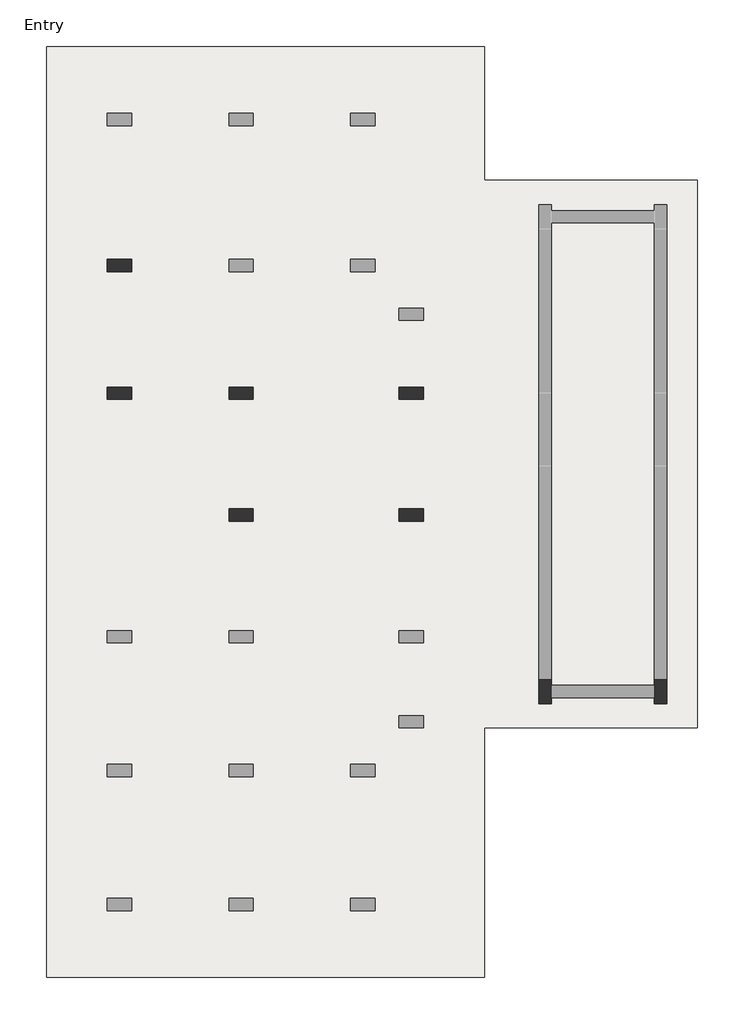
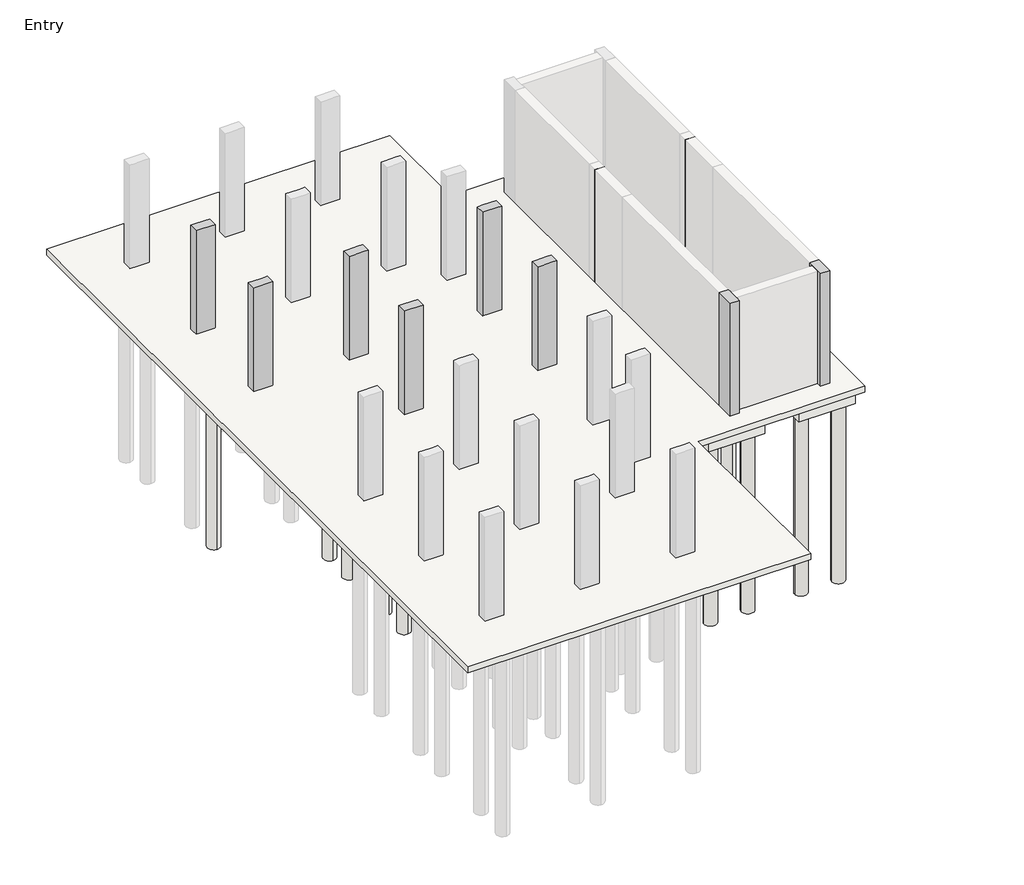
# One storey, part 2 of 3: 32 slabs, 13 columns, 4 footings.
"""IFC4 building model written with IfcOpenShell, lengths in millimetres."""

from ifc_helpers import new_model, si_unit, point, frame, frame_2d, origin, origin_with_axes, place, context, project, spatial, polyline, circle_curve, trimmed, segment, composite_curve, outline, extrude, faceted_brep, element, save

model = new_model("IFC4")

# Units and contexts
model_context = context("Model", 3, world=origin())
ifc_project = project(units=[si_unit("LENGTHUNIT", "METRE", prefix="MILLI")], contexts=[model_context])

# Site, building, storey
site = spatial("IfcSite", under=ifc_project)
building = spatial("IfcBuilding", under=site)
storey = spatial("IfcBuildingStorey", under=building, Name="Entry", Elevation=0.0)

# Columns
placement = place(None, origin())
element("IfcColumn", 1, ObjectType="Concrete-Rectangular-Column : 12 x 24", at=placement, inside=storey, context=model_context, shape_type="Brep", body=[
    faceted_brep([(-15677.5554735, 10989.3867088, 0.0), (-15067.9554735, 10989.3867088, 0.0), (-15067.9554735, 10684.5867088, 0.0), (-15677.5554735, 10684.5867088, 0.0), (-15677.5554735, 10989.3867088, 3505.2), (-15525.1554735, 10989.3867088, 3505.2), (-15220.3554735, 10989.3867088, 3505.2), (-15067.9554735, 10989.3867088, 3505.2), (-15067.9554735, 10989.3867088, 2895.6), (-15067.9554735, 10684.5867088, 3505.2), (-15067.9554735, 10684.5867088, 2895.6), (-15220.3554735, 10684.5867088, 3505.2), (-15525.1554735, 10684.5867088, 3505.2), (-15677.5554735, 10684.5867088, 3505.2)], [[[0, 1, 2, 3]], [[4, 5, 6, 7, 8, 1, 0]], [[7, 9, 10, 2, 1, 8]], [[9, 11, 12, 13, 3, 2, 10]], [[13, 4, 0, 3]], [[4, 13, 12, 11, 9, 7, 6, 5]]]),
])
element("IfcColumn", 2, ObjectType="Concrete-Rectangular-Column : 12 x 24", at=placement, inside=storey, context=model_context, shape_type="Brep", body=[
    faceted_brep([(-8362.3554735, 7788.9867088, 0.0), (-7752.7554735, 7788.9867088, 0.0), (-7752.7554735, 7484.1867088, 0.0), (-8362.3554735, 7484.1867088, 0.0), (-8362.3554735, 7788.9867088, 3505.2), (-8209.9554735, 7788.9867088, 3505.2), (-7905.1554735, 7788.9867088, 3505.2), (-7752.7554735, 7788.9867088, 3505.2), (-7752.7554735, 7788.9867088, 2895.6), (-8362.3554735, 7788.9867088, 2895.6), (-7752.7554735, 7484.1867088, 3505.2), (-7752.7554735, 7484.1867088, 2895.6), (-7905.1554735, 7484.1867088, 3505.2), (-8209.9554735, 7484.1867088, 3505.2), (-8362.3554735, 7484.1867088, 3505.2), (-8362.3554735, 7484.1867088, 2895.6)], [[[0, 1, 2, 3]], [[4, 5, 6, 7, 8, 1, 0, 9]], [[7, 10, 11, 2, 1, 8]], [[10, 12, 13, 14, 15, 3, 2, 11]], [[14, 4, 9, 0, 3, 15]], [[4, 14, 13, 12, 10, 7, 6, 5]]]),
])
element("IfcColumn", 3, ObjectType="Concrete-Rectangular-Column : 12 x 24", at=placement, inside=storey, context=model_context, shape_type="Brep", body=[
    faceted_brep([(-15677.5554735, 7788.9867088, 0.0), (-15067.9554735, 7788.9867088, 0.0), (-15067.9554735, 7484.1867088, 0.0), (-15677.5554735, 7484.1867088, 0.0), (-15677.5554735, 7788.9867088, 3505.2), (-15525.1554735, 7788.9867088, 3505.2), (-15220.3554735, 7788.9867088, 3505.2), (-15067.9554735, 7788.9867088, 3505.2), (-15067.9554735, 7788.9867088, 2895.6), (-15067.9554735, 7484.1867088, 3505.2), (-15067.9554735, 7484.1867088, 2895.6), (-15677.5554735, 7484.1867088, 3505.2)], [[[0, 1, 2, 3]], [[4, 5, 6, 7, 8, 1, 0]], [[7, 9, 10, 2, 1, 8]], [[9, 11, 3, 2, 10]], [[11, 4, 0, 3]], [[4, 11, 9, 7, 6, 5]]]),
])
element("IfcColumn", 4, ObjectType="Concrete-Rectangular-Column : 12 x 24", at=placement, inside=storey, context=model_context, shape_type="Brep", body=[
    faceted_brep([(-12629.5554735, 7788.9867088, 0.0), (-12019.9554735, 7788.9867088, 0.0), (-12019.9554735, 7484.1867088, 0.0), (-12629.5554735, 7484.1867088, 0.0), (-12629.5554735, 7788.9867088, 3505.2), (-12477.1554735, 7788.9867088, 3505.2), (-12172.3554735, 7788.9867088, 3505.2), (-12019.9554735, 7788.9867088, 3505.2), (-12019.9554735, 7788.9867088, 2895.6), (-12629.5554735, 7788.9867088, 2895.6), (-12019.9554735, 7484.1867088, 3505.2), (-12019.9554735, 7484.1867088, 2895.6), (-12172.3554735, 7484.1867088, 3505.2), (-12477.1554735, 7484.1867088, 3505.2), (-12629.5554735, 7484.1867088, 3505.2), (-12629.5554735, 7484.1867088, 2895.6)], [[[0, 1, 2, 3]], [[4, 5, 6, 7, 8, 1, 0, 9]], [[7, 10, 11, 2, 1, 8]], [[10, 12, 13, 14, 15, 3, 2, 11]], [[14, 4, 9, 0, 3, 15]], [[4, 14, 13, 12, 10, 7, 6, 5]]]),
])
element("IfcColumn", 5, ObjectType="Concrete-Rectangular-Column : 12 x 24", at=placement, inside=storey, context=model_context, shape_type="Brep", body=[
    faceted_brep([(-12629.5554735, 4740.9867088, 0.0), (-12019.9554735, 4740.9867088, 0.0), (-12019.9554735, 4436.1867088, 0.0), (-12629.5554735, 4436.1867088, 0.0), (-12629.5554735, 4740.9867088, 3505.2), (-12477.1554735, 4740.9867088, 3505.2), (-12172.3554735, 4740.9867088, 3505.2), (-12019.9554735, 4740.9867088, 3505.2), (-12019.9554735, 4740.9867088, 2895.6), (-12019.9554735, 4436.1867088, 3505.2), (-12019.9554735, 4436.1867088, 2895.6), (-12172.3554735, 4436.1867088, 3505.2), (-12477.1554735, 4436.1867088, 3505.2), (-12629.5554735, 4436.1867088, 3505.2)], [[[0, 1, 2, 3]], [[4, 5, 6, 7, 8, 1, 0]], [[7, 9, 10, 2, 1, 8]], [[9, 11, 12, 13, 3, 2, 10]], [[13, 4, 0, 3]], [[4, 13, 12, 11, 9, 7, 6, 5]]]),
])
element("IfcColumn", 6, ObjectType="Concrete-Rectangular-Column : 12 x 24", at=placement, inside=storey, context=model_context, shape_type="Brep", body=[
    faceted_brep([(-8362.3554735, 4740.9867088, 0.0), (-7752.7554735, 4740.9867088, 0.0), (-7752.7554735, 4436.1867088, 0.0), (-8362.3554735, 4436.1867088, 0.0), (-8362.3554735, 4740.9867088, 3505.2), (-8209.9554735, 4740.9867088, 3505.2), (-7905.1554735, 4740.9867088, 3505.2), (-7752.7554735, 4740.9867088, 3505.2), (-8362.3554735, 4740.9867088, 2895.6), (-7752.7554735, 4436.1867088, 3505.2), (-7905.1554735, 4436.1867088, 3505.2), (-8209.9554735, 4436.1867088, 3505.2), (-8362.3554735, 4436.1867088, 3505.2), (-8362.3554735, 4436.1867088, 2895.6)], [[[0, 1, 2, 3]], [[4, 5, 6, 7, 1, 0, 8]], [[7, 9, 2, 1]], [[9, 10, 11, 12, 13, 3, 2]], [[12, 4, 8, 0, 3, 13]], [[4, 12, 11, 10, 9, 7, 6, 5]]]),
])
element("IfcColumn", 7, ObjectType="Concrete-Rectangular-Column : 12 x 24", at=placement, inside=storey, context=model_context, shape_type="SweptSolid", body=[
    extrude(outline(polyline([(-4552.3554735, 7331.7867088), (-4857.1554735, 7331.7867088), (-4857.1554735, 7636.5867088), (-4552.3554735, 7636.5867088), (-4552.3554735, 7331.7867088)])), origin_with_axes(), (0.0, 0.0, 1.0), 3810.0),
])
element("IfcColumn", 8, ObjectType="Concrete-Rectangular-Column : 12 x 24", at=placement, inside=storey, context=model_context, shape_type="Brep", body=[
    faceted_brep([(-4552.3554735, 473.7867088, 0.0), (-4552.3554735, 321.3867088, 0.0), (-4552.3554735, 16.5867088, 0.0), (-4552.3554735, -135.8132912, 0.0), (-4857.1554735, -135.8132912, 0.0), (-4857.1554735, 473.7867088, 0.0), (-4552.3554735, 473.7867088, 3810.0), (-4552.3554735, 321.3867088, 3810.0), (-4552.3554735, 16.5867088, 3810.0), (-4552.3554735, -135.8132912, 3810.0), (-4857.1554735, -135.8132912, 3810.0), (-4857.1554735, 473.7867088, 3810.0)], [[[0, 1, 2, 3, 4, 5]], [[6, 7, 8, 9, 3, 2, 1, 0]], [[9, 10, 4, 3]], [[10, 11, 5, 4]], [[11, 6, 0, 5]], [[6, 11, 10, 9, 8, 7]]]),
])
element("IfcColumn", 9, ObjectType="Concrete-Rectangular-Column : 12 x 24", at=placement, inside=storey, context=model_context, shape_type="Brep", body=[
    faceted_brep([(-1656.7554735, 473.7867088, 0.0), (-1656.7554735, -135.8132912, 0.0), (-1961.5554735, -135.8132912, 0.0), (-1961.5554735, 16.5867088, 0.0), (-1961.5554735, 321.3867088, 0.0), (-1961.5554735, 473.7867088, 0.0), (-1656.7554735, 473.7867088, 3810.0), (-1656.7554735, -135.8132912, 3810.0), (-1961.5554735, -135.8132912, 3810.0), (-1961.5554735, 16.5867088, 3810.0), (-1961.5554735, 321.3867088, 3810.0), (-1961.5554735, 473.7867088, 3810.0)], [[[0, 1, 2, 3, 4, 5]], [[6, 7, 1, 0]], [[7, 8, 2, 1]], [[8, 9, 10, 11, 5, 4, 3, 2]], [[11, 6, 0, 5]], [[6, 11, 10, 9, 8, 7]]]),
])
element("IfcColumn", 10, ObjectType="Concrete-Rectangular-Column : 12 x 24", at=placement, inside=storey, context=model_context, shape_type="SweptSolid", body=[
    extrude(outline(polyline([(-1656.7554735, 7331.7867088), (-1961.5554735, 7331.7867088), (-1961.5554735, 7636.5867088), (-1656.7554735, 7636.5867088), (-1656.7554735, 7331.7867088)])), origin_with_axes(), (0.0, 0.0, 1.0), 3810.0),
])
element("IfcColumn", 11, ObjectType="Concrete-Rectangular-Column : 12 x 24", at=placement, inside=storey, context=model_context, shape_type="Brep", body=[
    faceted_brep([(-15677.5554735, 10989.3867088, 0.0), (-15067.9554735, 10989.3867088, 0.0), (-15067.9554735, 10684.5867088, 0.0), (-15677.5554735, 10684.5867088, 0.0), (-15677.5554735, 10989.3867088, 3505.2), (-15525.1554735, 10989.3867088, 3505.2), (-15220.3554735, 10989.3867088, 3505.2), (-15067.9554735, 10989.3867088, 3505.2), (-15067.9554735, 10989.3867088, 2895.6), (-15067.9554735, 10684.5867088, 3505.2), (-15067.9554735, 10684.5867088, 2895.6), (-15220.3554735, 10684.5867088, 3505.2), (-15525.1554735, 10684.5867088, 3505.2), (-15677.5554735, 10684.5867088, 3505.2)], [[[0, 1, 2, 3]], [[4, 5, 6, 7, 8, 1, 0]], [[7, 9, 10, 2, 1, 8]], [[9, 11, 12, 13, 3, 2, 10]], [[13, 4, 0, 3]], [[4, 13, 12, 11, 9, 7, 6, 5]]]),
])
element("IfcColumn", 12, ObjectType="Concrete-Rectangular-Column : 12 x 24", at=placement, inside=storey, context=model_context, shape_type="Brep", body=[
    faceted_brep([(-8362.3554735, 7788.9867088, 0.0), (-7752.7554735, 7788.9867088, 0.0), (-7752.7554735, 7484.1867088, 0.0), (-8362.3554735, 7484.1867088, 0.0), (-8362.3554735, 7788.9867088, 3505.2), (-8209.9554735, 7788.9867088, 3505.2), (-7905.1554735, 7788.9867088, 3505.2), (-7752.7554735, 7788.9867088, 3505.2), (-7752.7554735, 7788.9867088, 2895.6), (-8362.3554735, 7788.9867088, 2895.6), (-7752.7554735, 7484.1867088, 3505.2), (-7752.7554735, 7484.1867088, 2895.6), (-7905.1554735, 7484.1867088, 3505.2), (-8209.9554735, 7484.1867088, 3505.2), (-8362.3554735, 7484.1867088, 3505.2), (-8362.3554735, 7484.1867088, 2895.6)], [[[0, 1, 2, 3]], [[4, 5, 6, 7, 8, 1, 0, 9]], [[7, 10, 11, 2, 1, 8]], [[10, 12, 13, 14, 15, 3, 2, 11]], [[14, 4, 9, 0, 3, 15]], [[4, 14, 13, 12, 10, 7, 6, 5]]]),
])
element("IfcColumn", 13, ObjectType="Concrete-Rectangular-Column : 12 x 24", at=placement, inside=storey, context=model_context, shape_type="Brep", body=[
    faceted_brep([(-12629.5554735, 7788.9867088, 0.0), (-12019.9554735, 7788.9867088, 0.0), (-12019.9554735, 7484.1867088, 0.0), (-12629.5554735, 7484.1867088, 0.0), (-12629.5554735, 7788.9867088, 3505.2), (-12477.1554735, 7788.9867088, 3505.2), (-12172.3554735, 7788.9867088, 3505.2), (-12019.9554735, 7788.9867088, 3505.2), (-12019.9554735, 7788.9867088, 2895.6), (-12629.5554735, 7788.9867088, 2895.6), (-12019.9554735, 7484.1867088, 3505.2), (-12019.9554735, 7484.1867088, 2895.6), (-12172.3554735, 7484.1867088, 3505.2), (-12477.1554735, 7484.1867088, 3505.2), (-12629.5554735, 7484.1867088, 3505.2), (-12629.5554735, 7484.1867088, 2895.6)], [[[0, 1, 2, 3]], [[4, 5, 6, 7, 8, 1, 0, 9]], [[7, 10, 11, 2, 1, 8]], [[10, 12, 13, 14, 15, 3, 2, 11]], [[14, 4, 9, 0, 3, 15]], [[4, 14, 13, 12, 10, 7, 6, 5]]]),
])

# Footings
element("IfcFooting", 14, ObjectType="Bearing Footing - 36\" x 12\"", at=placement, inside=storey, context=model_context, shape_type="Brep", body=[
    faceted_brep([(-1351.9554735, 5807.7867088, -304.8), (-1402.7554735, 5807.7867088, -304.8), (-1402.7554735, 5807.7867088, -203.2), (-1351.9554735, 5807.7867088, -203.2), (-2215.5554735, 5807.7867088, -304.8), (-2266.3554735, 5807.7867088, -304.8), (-2266.3554735, 5807.7867088, -203.2), (-2215.5554735, 5807.7867088, -203.2), (-2266.3554735, 626.1867088, -304.8), (-2266.3554735, 575.3867088, -304.8), (-2266.3554735, 575.3867088, -203.2), (-2266.3554735, 626.1867088, -203.2), (-1351.9554735, 575.3867088, -304.8), (-2215.5554735, 4906.0867088, -304.8), (-1402.7554735, 4906.0867088, -304.8), (-1351.9554735, 575.3867088, -203.2), (-1402.7554735, 4906.0867088, -203.2), (-2215.5554735, 4906.0867088, -203.2)], [[[0, 1, 2, 3]], [[4, 5, 6, 7]], [[5, 8, 9, 10, 11, 6]], [[1, 0, 12, 9, 8, 5, 4, 13, 14]], [[12, 0, 3, 15]], [[1, 14, 16, 2]], [[13, 4, 7, 17]], [[14, 13, 17, 16]], [[9, 12, 15, 10]], [[7, 6, 11, 10, 15, 3, 2, 16, 17]]]),
])
element("IfcFooting", 15, ObjectType="Bearing Footing - 36\" x 12\"", at=placement, inside=storey, context=model_context, shape_type="Brep", body=[
    faceted_brep([(-4552.3554735, -237.4132912, -304.8), (-4552.3554735, -288.2132912, -304.8), (-4552.3554735, -288.2132912, -203.2), (-4552.3554735, -237.4132912, -203.2), (-4552.3554735, 626.1867088, -304.8), (-4552.3554735, 575.3867088, -304.8), (-4552.3554735, 575.3867088, -203.2), (-4552.3554735, 626.1867088, -203.2), (-1961.5554735, -288.2132912, -304.8), (-1961.5554735, -237.4132912, -304.8), (-1961.5554735, -237.4132912, -203.2), (-1961.5554735, -288.2132912, -203.2), (-2266.3554735, 626.1867088, -304.8), (-4247.5554735, 626.1867088, -304.8), (-4247.5554735, 626.1867088, -203.2), (-2266.3554735, 626.1867088, -203.2), (-3803.0554735, -237.4132912, -304.8), (-3803.0554735, 575.3867088, -304.8), (-2266.3554735, 575.3867088, -304.8), (-2710.8554735, 575.3867088, -304.8), (-2710.8554735, -237.4132912, -304.8), (-3803.0554735, 575.3867088, -203.2), (-3803.0554735, -237.4132912, -203.2), (-2266.3554735, 575.3867088, -203.2), (-2710.8554735, 575.3867088, -203.2), (-2710.8554735, -237.4132912, -203.2)], [[[0, 1, 2, 3]], [[4, 5, 6, 7]], [[8, 9, 10, 11]], [[12, 13, 4, 7, 14, 15]], [[8, 1, 0, 16, 17, 5, 4, 13, 12, 18, 19, 20, 9]], [[1, 8, 11, 2]], [[5, 17, 21, 6]], [[16, 0, 3, 22]], [[17, 16, 22, 21]], [[19, 18, 23, 24]], [[20, 19, 24, 25]], [[9, 20, 25, 10]], [[18, 12, 15, 23]], [[7, 6, 21, 22, 3, 2, 11, 10, 25, 24, 23, 15, 14]]]),
])
element("IfcFooting", 16, ObjectType="Bearing Footing - 36\" x 12\"", at=placement, inside=storey, context=model_context, shape_type="SweptSolid", body=[
    extrude(outline(polyline([(-4298.3554735, 4906.0867088), (-4298.3554735, 5807.7867088), (-4247.5554735, 5807.7867088), (-4247.5554735, 626.1867088), (-4552.3554735, 626.1867088), (-4552.3554735, 575.3867088), (-5161.9554735, 575.3867088), (-5161.9554735, 5807.7867088), (-5111.1554735, 5807.7867088), (-5111.1554735, 4906.0867088), (-4298.3554735, 4906.0867088)])), frame((0.0, 0.0, -304.8), z_axis=(0.0, 0.0, 1.0), x_axis=(1.0, 0.0, 0.0)), (0.0, 0.0, 1.0), 101.6),
])
element("IfcFooting", 17, ObjectType="Bearing Footing - 36\" x 12\"", at=placement, inside=storey, context=model_context, shape_type="SweptSolid", body=[
    extrude(outline(polyline([(-1351.9554735, 7636.5867088), (-1351.9554735, 5807.7867088), (-1402.7554735, 5807.7867088), (-1402.7554735, 6709.4867088), (-2215.5554735, 6709.4867088), (-2215.5554735, 5807.7867088), (-2266.3554735, 5807.7867088), (-2266.3554735, 7636.5867088), (-2215.5554735, 7636.5867088), (-2215.5554735, 6734.8867088), (-1402.7554735, 6734.8867088), (-1402.7554735, 7636.5867088), (-1351.9554735, 7636.5867088)])), frame((0.0, 0.0, -304.8), z_axis=(0.0, 0.0, 1.0), x_axis=(1.0, 0.0, 0.0)), (0.0, 0.0, 1.0), 101.6),
])

# Slabs
element("IfcSlab", 18, ObjectType="8\" Foundation Slab", at=placement, inside=storey, context=model_context, shape_type="SweptSolid", body=[
    extrude(outline(polyline([(-6228.7554735, 16323.3867088), (-6228.7554735, 12970.5867088), (-894.7554735, 12970.5867088), (-894.7554735, -745.4132912), (-6228.7554735, -745.4132912), (-6228.7554735, -6993.8132912), (-17201.5554735, -6993.8132912), (-17201.5554735, 16323.3867088), (-6228.7554735, 16323.3867088)])), frame((0.0, 0.0, -203.2), z_axis=(0.0, 0.0, 1.0), x_axis=(1.0, 0.0, 0.0)), (0.0, 0.0, 1.0), 203.2),
])
element("IfcSlab", 19, ObjectType="Pile Cap-2 Pile : 31\"x61\"x35\"", at=placement, inside=storey, context=model_context, shape_type="SweptSolid", body=[
    extrude(outline(polyline([(-15779.1554735, 11738.6867088), (-14966.3554735, 11738.6867088), (-14966.3554735, 9935.2867088), (-15779.1554735, 9935.2867088), (-15779.1554735, 11738.6867088)])), frame((0.0, 0.0, -889.0), z_axis=(0.0, 0.0, 1.0), x_axis=(1.0, 0.0, 0.0)), (0.0, 0.0, 1.0), 685.8),
])
element("IfcSlab", 20, ObjectType="Pile Cap-2 Pile : 31\"x61\"x35\"", at=placement, inside=storey, context=model_context, shape_type="SweptSolid", body=[
    extrude(outline(polyline([(-8463.9554735, 5490.2867088), (-7651.1554735, 5490.2867088), (-7651.1554735, 3686.8867088), (-8463.9554735, 3686.8867088), (-8463.9554735, 5490.2867088)])), frame((0.0, 0.0, -889.0), z_axis=(0.0, 0.0, 1.0), x_axis=(1.0, 0.0, 0.0)), (0.0, 0.0, 1.0), 685.8),
])
element("IfcSlab", 21, ObjectType="Pile Cap-2 Pile : 31\"x61\"x35\"", at=placement, inside=storey, context=model_context, shape_type="SweptSolid", body=[
    extrude(outline(polyline([(-8463.9554735, 8538.2867088), (-7651.1554735, 8538.2867088), (-7651.1554735, 6734.8867088), (-8463.9554735, 6734.8867088), (-8463.9554735, 8538.2867088)])), frame((0.0, 0.0, -889.0), z_axis=(0.0, 0.0, 1.0), x_axis=(1.0, 0.0, 0.0)), (0.0, 0.0, 1.0), 685.8),
])
element("IfcSlab", 22, ObjectType="Pile Cap-2 Pile : 31\"x61\"x35\"", at=placement, inside=storey, context=model_context, shape_type="Brep", body=[
    faceted_brep([(-5111.1554735, 8538.2867088, -889.0), (-4298.3554735, 8538.2867088, -889.0), (-4298.3554735, 6734.8867088, -889.0), (-5111.1554735, 6734.8867088, -889.0), (-5111.1554735, 6734.8867088, -203.2), (-5111.1554735, 7636.5867088, -203.2), (-5111.1554735, 8538.2867088, -203.2), (-5111.1554735, 8538.2867088, -304.8), (-4298.3554735, 6734.8867088, -203.2), (-4298.3554735, 8538.2867088, -304.8), (-4298.3554735, 8538.2867088, -203.2), (-4298.3554735, 7636.5867088, -203.2)], [[[0, 1, 2, 3]], [[0, 3, 4, 5, 6, 7]], [[3, 2, 8, 4]], [[2, 1, 9, 10, 11, 8]], [[1, 0, 7, 6, 10, 9]], [[6, 5, 4, 8, 11, 10]]]),
])
element("IfcSlab", 23, ObjectType="Pile Cap-2 Pile : 31\"x61\"x35\"", at=placement, inside=storey, context=model_context, shape_type="Brep", body=[
    faceted_brep([(-2215.5554735, 8538.2867088, -889.0), (-1402.7554735, 8538.2867088, -889.0), (-1402.7554735, 6734.8867088, -889.0), (-2215.5554735, 6734.8867088, -889.0), (-2215.5554735, 6734.8867088, -304.8), (-2215.5554735, 6734.8867088, -203.2), (-2215.5554735, 7636.5867088, -203.2), (-2215.5554735, 8538.2867088, -203.2), (-2215.5554735, 8538.2867088, -304.8), (-1402.7554735, 6734.8867088, -304.8), (-1402.7554735, 6734.8867088, -203.2), (-1402.7554735, 8538.2867088, -304.8), (-1402.7554735, 8538.2867088, -203.2), (-1402.7554735, 7636.5867088, -203.2)], [[[0, 1, 2, 3]], [[0, 3, 4, 5, 6, 7, 8]], [[3, 2, 9, 10, 5, 4]], [[2, 1, 11, 12, 13, 10, 9]], [[1, 0, 8, 7, 12, 11]], [[7, 6, 5, 10, 13, 12]]]),
])
element("IfcSlab", 24, ObjectType="Pile Cap-2 Pile : 31\"x61\"x35\"", at=placement, inside=storey, context=model_context, shape_type="Brep", body=[
    faceted_brep([(-4298.3554735, 4906.0867088, -889.0), (-5111.1554735, 4906.0867088, -889.0), (-5111.1554735, 6709.4867088, -889.0), (-4298.3554735, 6709.4867088, -889.0), (-4298.3554735, 6709.4867088, -203.2), (-4298.3554735, 5807.7867088, -203.2), (-4298.3554735, 4906.0867088, -203.2), (-4298.3554735, 4906.0867088, -304.8), (-5111.1554735, 6709.4867088, -203.2), (-5111.1554735, 4906.0867088, -304.8), (-5111.1554735, 4906.0867088, -203.2), (-5111.1554735, 5807.7867088, -203.2)], [[[0, 1, 2, 3]], [[0, 3, 4, 5, 6, 7]], [[3, 2, 8, 4]], [[2, 1, 9, 10, 11, 8]], [[1, 0, 7, 6, 10, 9]], [[6, 5, 4, 8, 11, 10]]]),
])
element("IfcSlab", 25, ObjectType="Pile Cap-2 Pile : 31\"x61\"x35\"", at=placement, inside=storey, context=model_context, shape_type="Brep", body=[
    faceted_brep([(-1402.7554735, 4906.0867088, -889.0), (-2215.5554735, 4906.0867088, -889.0), (-2215.5554735, 6709.4867088, -889.0), (-1402.7554735, 6709.4867088, -889.0), (-1402.7554735, 6709.4867088, -304.8), (-1402.7554735, 6709.4867088, -203.2), (-1402.7554735, 5807.7867088, -203.2), (-1402.7554735, 4906.0867088, -203.2), (-1402.7554735, 4906.0867088, -304.8), (-2215.5554735, 6709.4867088, -304.8), (-2215.5554735, 6709.4867088, -203.2), (-2215.5554735, 4906.0867088, -304.8), (-2215.5554735, 4906.0867088, -203.2), (-2215.5554735, 5807.7867088, -203.2)], [[[0, 1, 2, 3]], [[0, 3, 4, 5, 6, 7, 8]], [[3, 2, 9, 10, 5, 4]], [[2, 1, 11, 12, 13, 10, 9]], [[1, 0, 8, 7, 12, 11]], [[7, 6, 5, 10, 13, 12]]]),
])
element("IfcSlab", 26, ObjectType="Pile Cap-2 Pile : 31\"x61\"x35\"", at=placement, inside=storey, context=model_context, shape_type="Brep", body=[
    faceted_brep([(-3803.0554735, 575.3867088, -889.0), (-3803.0554735, -237.4132912, -889.0), (-5606.4554735, -237.4132912, -889.0), (-5606.4554735, 575.3867088, -889.0), (-5606.4554735, 575.3867088, -203.2), (-5161.9554735, 575.3867088, -203.2), (-4552.3554735, 575.3867088, -203.2), (-3803.0554735, 575.3867088, -203.2), (-3803.0554735, 575.3867088, -304.8), (-5606.4554735, -237.4132912, -203.2), (-3803.0554735, -237.4132912, -304.8), (-3803.0554735, -237.4132912, -203.2), (-4552.3554735, -237.4132912, -203.2)], [[[0, 1, 2, 3]], [[0, 3, 4, 5, 6, 7, 8]], [[3, 2, 9, 4]], [[2, 1, 10, 11, 12, 9]], [[1, 0, 8, 7, 11, 10]], [[7, 6, 5, 4, 9, 12, 11]]]),
])
element("IfcSlab", 27, ObjectType="Pile Cap-2 Pile : 31\"x61\"x35\"", at=placement, inside=storey, context=model_context, shape_type="Brep", body=[
    faceted_brep([(-907.4554735, 575.3867088, -889.0), (-907.4554735, -237.4132912, -889.0), (-2710.8554735, -237.4132912, -889.0), (-2710.8554735, 575.3867088, -889.0), (-2710.8554735, 575.3867088, -304.8), (-2710.8554735, 575.3867088, -203.2), (-2266.3554735, 575.3867088, -203.2), (-1351.9554735, 575.3867088, -203.2), (-907.4554735, 575.3867088, -203.2), (-2710.8554735, -237.4132912, -304.8), (-2710.8554735, -237.4132912, -203.2), (-907.4554735, -237.4132912, -203.2), (-1961.5554735, -237.4132912, -203.2)], [[[0, 1, 2, 3]], [[0, 3, 4, 5, 6, 7, 8]], [[3, 2, 9, 10, 5, 4]], [[2, 1, 11, 12, 10, 9]], [[1, 0, 8, 11]], [[8, 7, 6, 5, 10, 12, 11]]]),
])
element("IfcSlab", 28, ObjectType="Pile Cap-4 Pile : 72\"x72\"x35\"", at=placement, inside=storey, context=model_context, shape_type="SweptSolid", body=[
    extrude(outline(polyline([(-13239.1554735, 8550.9867088), (-11410.3554735, 8550.9867088), (-11410.3554735, 6722.1867088), (-13239.1554735, 6722.1867088), (-13239.1554735, 8550.9867088)])), frame((0.0, 0.0, -889.0), z_axis=(0.0, 0.0, 1.0), x_axis=(1.0, 0.0, 0.0)), (0.0, 0.0, 1.0), 685.8),
])
element("IfcSlab", 29, ObjectType="Pile Cap-4 Pile : 72\"x72\"x35\"", at=placement, inside=storey, context=model_context, shape_type="SweptSolid", body=[
    extrude(outline(polyline([(-13239.1554735, 5502.9867088), (-11410.3554735, 5502.9867088), (-11410.3554735, 3674.1867088), (-13239.1554735, 3674.1867088), (-13239.1554735, 5502.9867088)])), frame((0.0, 0.0, -889.0), z_axis=(0.0, 0.0, 1.0), x_axis=(1.0, 0.0, 0.0)), (0.0, 0.0, 1.0), 685.8),
])
element("IfcSlab", 30, ObjectType="Pile-Steel Pipe : 16\" Diameter", at=placement, inside=storey, context=model_context, shape_type="SweptSolid", body=[
    extrude(outline(composite_curve([segment(trimmed(circle_curve(frame_2d((-12858.1554735, 7103.1867088)), 203.2), [point((-12858.1554735, 6899.9867088))], [point((-12858.1554735, 7306.3867088))], False, "CARTESIAN"), True, "CONTINUOUS"), segment(trimmed(circle_curve(frame_2d((-12858.1554735, 7103.1867088)), 203.2), [point((-12858.1554735, 7306.3867088))], [point((-12858.1554735, 6899.9867088))], False, "CARTESIAN"), True, "CONTINUOUS")], self_intersect=False)), frame((0.0, 0.0, -6985.0), z_axis=(0.0, 0.0, 1.0), x_axis=(1.0, 0.0, 0.0)), (0.0, 0.0, 1.0), 6096.0),
])
element("IfcSlab", 31, ObjectType="Pile-Steel Pipe : 16\" Diameter", at=placement, inside=storey, context=model_context, shape_type="SweptSolid", body=[
    extrude(outline(composite_curve([segment(trimmed(circle_curve(frame_2d((-11791.3554735, 7103.1867088)), 203.2), [point((-11791.3554735, 6899.9867088))], [point((-11791.3554735, 7306.3867088))], False, "CARTESIAN"), True, "CONTINUOUS"), segment(trimmed(circle_curve(frame_2d((-11791.3554735, 7103.1867088)), 203.2), [point((-11791.3554735, 7306.3867088))], [point((-11791.3554735, 6899.9867088))], False, "CARTESIAN"), True, "CONTINUOUS")], self_intersect=False)), frame((0.0, 0.0, -6985.0), z_axis=(0.0, 0.0, 1.0), x_axis=(1.0, 0.0, 0.0)), (0.0, 0.0, 1.0), 6096.0),
])
element("IfcSlab", 32, ObjectType="Pile-Steel Pipe : 16\" Diameter", at=placement, inside=storey, context=model_context, shape_type="SweptSolid", body=[
    extrude(outline(composite_curve([segment(trimmed(circle_curve(frame_2d((-12858.1554735, 8169.9867088)), 203.2), [point((-12858.1554735, 7966.7867088))], [point((-12858.1554735, 8373.1867088))], False, "CARTESIAN"), True, "CONTINUOUS"), segment(trimmed(circle_curve(frame_2d((-12858.1554735, 8169.9867088)), 203.2), [point((-12858.1554735, 8373.1867088))], [point((-12858.1554735, 7966.7867088))], False, "CARTESIAN"), True, "CONTINUOUS")], self_intersect=False)), frame((0.0, 0.0, -6985.0), z_axis=(0.0, 0.0, 1.0), x_axis=(1.0, 0.0, 0.0)), (0.0, 0.0, 1.0), 6096.0),
])
element("IfcSlab", 33, ObjectType="Pile-Steel Pipe : 16\" Diameter", at=placement, inside=storey, context=model_context, shape_type="SweptSolid", body=[
    extrude(outline(composite_curve([segment(trimmed(circle_curve(frame_2d((-12858.1554735, 4055.1867088)), 203.2), [point((-12858.1554735, 3851.9867088))], [point((-12858.1554735, 4258.3867088))], False, "CARTESIAN"), True, "CONTINUOUS"), segment(trimmed(circle_curve(frame_2d((-12858.1554735, 4055.1867088)), 203.2), [point((-12858.1554735, 4258.3867088))], [point((-12858.1554735, 3851.9867088))], False, "CARTESIAN"), True, "CONTINUOUS")], self_intersect=False)), frame((0.0, 0.0, -6985.0), z_axis=(0.0, 0.0, 1.0), x_axis=(1.0, 0.0, 0.0)), (0.0, 0.0, 1.0), 6096.0),
])
element("IfcSlab", 34, ObjectType="Pile-Steel Pipe : 16\" Diameter", at=placement, inside=storey, context=model_context, shape_type="SweptSolid", body=[
    extrude(outline(composite_curve([segment(trimmed(circle_curve(frame_2d((-11791.3554735, 4055.1867088)), 203.2), [point((-11791.3554735, 3851.9867088))], [point((-11791.3554735, 4258.3867088))], False, "CARTESIAN"), True, "CONTINUOUS"), segment(trimmed(circle_curve(frame_2d((-11791.3554735, 4055.1867088)), 203.2), [point((-11791.3554735, 4258.3867088))], [point((-11791.3554735, 3851.9867088))], False, "CARTESIAN"), True, "CONTINUOUS")], self_intersect=False)), frame((0.0, 0.0, -6985.0), z_axis=(0.0, 0.0, 1.0), x_axis=(1.0, 0.0, 0.0)), (0.0, 0.0, 1.0), 6096.0),
])
element("IfcSlab", 35, ObjectType="Pile-Steel Pipe : 16\" Diameter", at=placement, inside=storey, context=model_context, shape_type="SweptSolid", body=[
    extrude(outline(composite_curve([segment(trimmed(circle_curve(frame_2d((-11791.3554735, 5121.9867088)), 203.2), [point((-11791.3554735, 4918.7867088))], [point((-11791.3554735, 5325.1867088))], False, "CARTESIAN"), True, "CONTINUOUS"), segment(trimmed(circle_curve(frame_2d((-11791.3554735, 5121.9867088)), 203.2), [point((-11791.3554735, 5325.1867088))], [point((-11791.3554735, 4918.7867088))], False, "CARTESIAN"), True, "CONTINUOUS")], self_intersect=False)), frame((0.0, 0.0, -6985.0), z_axis=(0.0, 0.0, 1.0), x_axis=(1.0, 0.0, 0.0)), (0.0, 0.0, 1.0), 6096.0),
])
element("IfcSlab", 36, ObjectType="Pile-Steel Pipe : 16\" Diameter", at=placement, inside=storey, context=model_context, shape_type="SweptSolid", body=[
    extrude(outline(composite_curve([segment(trimmed(circle_curve(frame_2d((-12858.1554735, 5121.9867088)), 203.2), [point((-12858.1554735, 4918.7867088))], [point((-12858.1554735, 5325.1867088))], False, "CARTESIAN"), True, "CONTINUOUS"), segment(trimmed(circle_curve(frame_2d((-12858.1554735, 5121.9867088)), 203.2), [point((-12858.1554735, 5325.1867088))], [point((-12858.1554735, 4918.7867088))], False, "CARTESIAN"), True, "CONTINUOUS")], self_intersect=False)), frame((0.0, 0.0, -6985.0), z_axis=(0.0, 0.0, 1.0), x_axis=(1.0, 0.0, 0.0)), (0.0, 0.0, 1.0), 6096.0),
])
element("IfcSlab", 37, ObjectType="Pile-Steel Pipe : 16\" Diameter", at=placement, inside=storey, context=model_context, shape_type="SweptSolid", body=[
    extrude(outline(composite_curve([segment(trimmed(circle_curve(frame_2d((-15372.7554735, 10240.0867088)), 203.2), [point((-15372.7554735, 10036.8867088))], [point((-15372.7554735, 10443.2867088))], False, "CARTESIAN"), True, "CONTINUOUS"), segment(trimmed(circle_curve(frame_2d((-15372.7554735, 10240.0867088)), 203.2), [point((-15372.7554735, 10443.2867088))], [point((-15372.7554735, 10036.8867088))], False, "CARTESIAN"), True, "CONTINUOUS")], self_intersect=False)), frame((0.0, 0.0, -6985.0), z_axis=(0.0, 0.0, 1.0), x_axis=(1.0, 0.0, 0.0)), (0.0, 0.0, 1.0), 6096.0),
])
element("IfcSlab", 38, ObjectType="Pile-Steel Pipe : 16\" Diameter", at=placement, inside=storey, context=model_context, shape_type="SweptSolid", body=[
    extrude(outline(composite_curve([segment(trimmed(circle_curve(frame_2d((-8057.5554735, 5185.4867088)), 203.2), [point((-8057.5554735, 4982.2867088))], [point((-8057.5554735, 5388.6867088))], False, "CARTESIAN"), True, "CONTINUOUS"), segment(trimmed(circle_curve(frame_2d((-8057.5554735, 5185.4867088)), 203.2), [point((-8057.5554735, 5388.6867088))], [point((-8057.5554735, 4982.2867088))], False, "CARTESIAN"), True, "CONTINUOUS")], self_intersect=False)), frame((0.0, 0.0, -6985.0), z_axis=(0.0, 0.0, 1.0), x_axis=(1.0, 0.0, 0.0)), (0.0, 0.0, 1.0), 6096.0),
])
element("IfcSlab", 39, ObjectType="Pile-Steel Pipe : 16\" Diameter", at=placement, inside=storey, context=model_context, shape_type="SweptSolid", body=[
    extrude(outline(composite_curve([segment(trimmed(circle_curve(frame_2d((-8057.5554735, 7039.6867088)), 203.2), [point((-8057.5554735, 6836.4867088))], [point((-8057.5554735, 7242.8867088))], False, "CARTESIAN"), True, "CONTINUOUS"), segment(trimmed(circle_curve(frame_2d((-8057.5554735, 7039.6867088)), 203.2), [point((-8057.5554735, 7242.8867088))], [point((-8057.5554735, 6836.4867088))], False, "CARTESIAN"), True, "CONTINUOUS")], self_intersect=False)), frame((0.0, 0.0, -6985.0), z_axis=(0.0, 0.0, 1.0), x_axis=(1.0, 0.0, 0.0)), (0.0, 0.0, 1.0), 6096.0),
])
element("IfcSlab", 40, ObjectType="Pile-Steel Pipe : 16\" Diameter", at=placement, inside=storey, context=model_context, shape_type="SweptSolid", body=[
    extrude(outline(composite_curve([segment(trimmed(circle_curve(frame_2d((-4704.7554735, 7039.6867088)), 203.2), [point((-4704.7554735, 6836.4867088))], [point((-4704.7554735, 7242.8867088))], False, "CARTESIAN"), True, "CONTINUOUS"), segment(trimmed(circle_curve(frame_2d((-4704.7554735, 7039.6867088)), 203.2), [point((-4704.7554735, 7242.8867088))], [point((-4704.7554735, 6836.4867088))], False, "CARTESIAN"), True, "CONTINUOUS")], self_intersect=False)), frame((0.0, 0.0, -6985.0), z_axis=(0.0, 0.0, 1.0), x_axis=(1.0, 0.0, 0.0)), (0.0, 0.0, 1.0), 6096.0),
])
element("IfcSlab", 41, ObjectType="Pile-Steel Pipe : 16\" Diameter", at=placement, inside=storey, context=model_context, shape_type="SweptSolid", body=[
    extrude(outline(composite_curve([segment(trimmed(circle_curve(frame_2d((-1809.1554735, 7039.6867088)), 203.2), [point((-1809.1554735, 6836.4867088))], [point((-1809.1554735, 7242.8867088))], False, "CARTESIAN"), True, "CONTINUOUS"), segment(trimmed(circle_curve(frame_2d((-1809.1554735, 7039.6867088)), 203.2), [point((-1809.1554735, 7242.8867088))], [point((-1809.1554735, 6836.4867088))], False, "CARTESIAN"), True, "CONTINUOUS")], self_intersect=False)), frame((0.0, 0.0, -6985.0), z_axis=(0.0, 0.0, 1.0), x_axis=(1.0, 0.0, 0.0)), (0.0, 0.0, 1.0), 6096.0),
])
element("IfcSlab", 42, ObjectType="Pile-Steel Pipe : 16\" Diameter", at=placement, inside=storey, context=model_context, shape_type="SweptSolid", body=[
    extrude(outline(composite_curve([segment(trimmed(circle_curve(frame_2d((-4704.7554735, 5210.8867088)), 203.2), [point((-4704.7554735, 5414.0867088))], [point((-4704.7554735, 5007.6867088))], False, "CARTESIAN"), True, "CONTINUOUS"), segment(trimmed(circle_curve(frame_2d((-4704.7554735, 5210.8867088)), 203.2), [point((-4704.7554735, 5007.6867088))], [point((-4704.7554735, 5414.0867088))], False, "CARTESIAN"), True, "CONTINUOUS")], self_intersect=False)), frame((0.0, 0.0, -6985.0), z_axis=(0.0, 0.0, 1.0), x_axis=(1.0, 0.0, 0.0)), (0.0, 0.0, 1.0), 6096.0),
])
element("IfcSlab", 43, ObjectType="Pile-Steel Pipe : 16\" Diameter", at=placement, inside=storey, context=model_context, shape_type="SweptSolid", body=[
    extrude(outline(composite_curve([segment(trimmed(circle_curve(frame_2d((-4704.7554735, 6404.6867088)), 203.2), [point((-4704.7554735, 6607.8867088))], [point((-4704.7554735, 6201.4867088))], False, "CARTESIAN"), True, "CONTINUOUS"), segment(trimmed(circle_curve(frame_2d((-4704.7554735, 6404.6867088)), 203.2), [point((-4704.7554735, 6201.4867088))], [point((-4704.7554735, 6607.8867088))], False, "CARTESIAN"), True, "CONTINUOUS")], self_intersect=False)), frame((0.0, 0.0, -6985.0), z_axis=(0.0, 0.0, 1.0), x_axis=(1.0, 0.0, 0.0)), (0.0, 0.0, 1.0), 6096.0),
])
element("IfcSlab", 44, ObjectType="Pile-Steel Pipe : 16\" Diameter", at=placement, inside=storey, context=model_context, shape_type="SweptSolid", body=[
    extrude(outline(composite_curve([segment(trimmed(circle_curve(frame_2d((-1809.1554735, 5210.8867088)), 203.2), [point((-1809.1554735, 5414.0867088))], [point((-1809.1554735, 5007.6867088))], False, "CARTESIAN"), True, "CONTINUOUS"), segment(trimmed(circle_curve(frame_2d((-1809.1554735, 5210.8867088)), 203.2), [point((-1809.1554735, 5007.6867088))], [point((-1809.1554735, 5414.0867088))], False, "CARTESIAN"), True, "CONTINUOUS")], self_intersect=False)), frame((0.0, 0.0, -6985.0), z_axis=(0.0, 0.0, 1.0), x_axis=(1.0, 0.0, 0.0)), (0.0, 0.0, 1.0), 6096.0),
])
element("IfcSlab", 45, ObjectType="Pile-Steel Pipe : 16\" Diameter", at=placement, inside=storey, context=model_context, shape_type="SweptSolid", body=[
    extrude(outline(composite_curve([segment(trimmed(circle_curve(frame_2d((-1809.1554735, 6404.6867088)), 203.2), [point((-1809.1554735, 6607.8867088))], [point((-1809.1554735, 6201.4867088))], False, "CARTESIAN"), True, "CONTINUOUS"), segment(trimmed(circle_curve(frame_2d((-1809.1554735, 6404.6867088)), 203.2), [point((-1809.1554735, 6201.4867088))], [point((-1809.1554735, 6607.8867088))], False, "CARTESIAN"), True, "CONTINUOUS")], self_intersect=False)), frame((0.0, 0.0, -6985.0), z_axis=(0.0, 0.0, 1.0), x_axis=(1.0, 0.0, 0.0)), (0.0, 0.0, 1.0), 6096.0),
])
element("IfcSlab", 46, ObjectType="Pile-Steel Pipe : 16\" Diameter", at=placement, inside=storey, context=model_context, shape_type="SweptSolid", body=[
    extrude(outline(composite_curve([segment(trimmed(circle_curve(frame_2d((-4107.8554735, 168.9867088)), 203.2), [point((-4311.0554735, 168.9867088))], [point((-3904.6554735, 168.9867088))], False, "CARTESIAN"), True, "CONTINUOUS"), segment(trimmed(circle_curve(frame_2d((-4107.8554735, 168.9867088)), 203.2), [point((-3904.6554735, 168.9867088))], [point((-4311.0554735, 168.9867088))], False, "CARTESIAN"), True, "CONTINUOUS")], self_intersect=False)), frame((0.0, 0.0, -6985.0), z_axis=(0.0, 0.0, 1.0), x_axis=(1.0, 0.0, 0.0)), (0.0, 0.0, 1.0), 6096.0),
])
element("IfcSlab", 47, ObjectType="Pile-Steel Pipe : 16\" Diameter", at=placement, inside=storey, context=model_context, shape_type="SweptSolid", body=[
    extrude(outline(composite_curve([segment(trimmed(circle_curve(frame_2d((-5301.6554735, 168.9867088)), 203.2), [point((-5504.8554735, 168.9867088))], [point((-5098.4554735, 168.9867088))], False, "CARTESIAN"), True, "CONTINUOUS"), segment(trimmed(circle_curve(frame_2d((-5301.6554735, 168.9867088)), 203.2), [point((-5098.4554735, 168.9867088))], [point((-5504.8554735, 168.9867088))], False, "CARTESIAN"), True, "CONTINUOUS")], self_intersect=False)), frame((0.0, 0.0, -6985.0), z_axis=(0.0, 0.0, 1.0), x_axis=(1.0, 0.0, 0.0)), (0.0, 0.0, 1.0), 6096.0),
])
element("IfcSlab", 48, ObjectType="Pile-Steel Pipe : 16\" Diameter", at=placement, inside=storey, context=model_context, shape_type="SweptSolid", body=[
    extrude(outline(composite_curve([segment(trimmed(circle_curve(frame_2d((-1212.2554735, 168.9867088)), 203.2), [point((-1415.4554735, 168.9867088))], [point((-1009.0554735, 168.9867088))], False, "CARTESIAN"), True, "CONTINUOUS"), segment(trimmed(circle_curve(frame_2d((-1212.2554735, 168.9867088)), 203.2), [point((-1009.0554735, 168.9867088))], [point((-1415.4554735, 168.9867088))], False, "CARTESIAN"), True, "CONTINUOUS")], self_intersect=False)), frame((0.0, 0.0, -6985.0), z_axis=(0.0, 0.0, 1.0), x_axis=(1.0, 0.0, 0.0)), (0.0, 0.0, 1.0), 6096.0),
])
element("IfcSlab", 49, ObjectType="Pile-Steel Pipe : 16\" Diameter", at=placement, inside=storey, context=model_context, shape_type="SweptSolid", body=[
    extrude(outline(composite_curve([segment(trimmed(circle_curve(frame_2d((-2406.0554735, 168.9867088)), 203.2), [point((-2609.2554735, 168.9867088))], [point((-2202.8554735, 168.9867088))], False, "CARTESIAN"), True, "CONTINUOUS"), segment(trimmed(circle_curve(frame_2d((-2406.0554735, 168.9867088)), 203.2), [point((-2202.8554735, 168.9867088))], [point((-2609.2554735, 168.9867088))], False, "CARTESIAN"), True, "CONTINUOUS")], self_intersect=False)), frame((0.0, 0.0, -6985.0), z_axis=(0.0, 0.0, 1.0), x_axis=(1.0, 0.0, 0.0)), (0.0, 0.0, 1.0), 6096.0),
])

save(model, "model.ifc")
